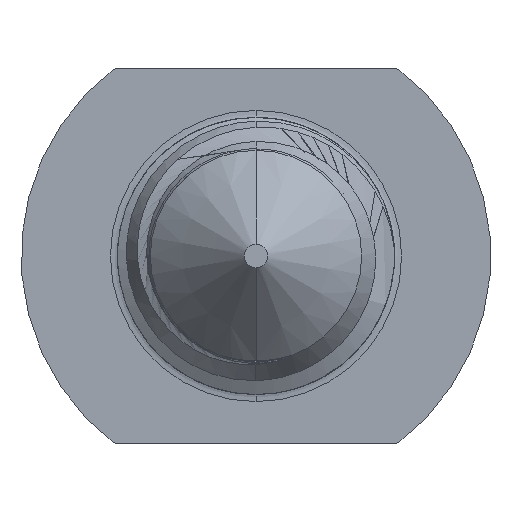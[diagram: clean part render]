
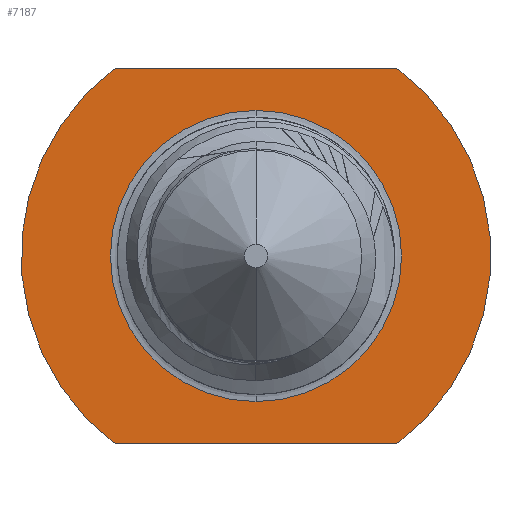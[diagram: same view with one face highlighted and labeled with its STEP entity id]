
A CAD part, front view. The second image highlights one B-rep face of the part: STEP entity #7187.
In plain terms, the highlighted planar face has unit normal (0, -1, 0).
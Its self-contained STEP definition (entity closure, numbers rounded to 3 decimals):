
#83 = CARTESIAN_POINT ( 'NONE',  ( 0., 0., 0. ) ) ;
#247 = CIRCLE ( 'NONE', #19374, 5. ) ;
#497 = DIRECTION ( 'NONE',  ( 0., 1., 0. ) ) ;
#1564 = AXIS2_PLACEMENT_3D ( 'NONE', #13418, #12155, #5413 ) ;
#2035 = ORIENTED_EDGE ( 'NONE', *, *, #19783, .T. ) ;
#2218 = ORIENTED_EDGE ( 'NONE', *, *, #12971, .T. ) ;
#3236 = CIRCLE ( 'NONE', #12350, 3.1 ) ;
#3238 = VECTOR ( 'NONE', #10981, 1000. ) ;
#3449 = CARTESIAN_POINT ( 'NONE',  ( 0., 0., 0. ) ) ;
#3719 = FACE_OUTER_BOUND ( 'NONE', #17692, .T. ) ;
#4107 = ORIENTED_EDGE ( 'NONE', *, *, #9130, .F. ) ;
#4137 = LINE ( 'NONE', #20434, #3238 ) ;
#4314 = DIRECTION ( 'NONE',  ( 0., 0., 1. ) ) ;
#4686 = DIRECTION ( 'NONE',  ( -1., 0., 0. ) ) ;
#5326 = CARTESIAN_POINT ( 'NONE',  ( -3., 0., 4. ) ) ;
#5365 = CARTESIAN_POINT ( 'NONE',  ( 3., 0., 4. ) ) ;
#5368 = CARTESIAN_POINT ( 'NONE',  ( 3., 0., -4. ) ) ;
#5413 = DIRECTION ( 'NONE',  ( 0., 0., 1. ) ) ;
#5640 = VECTOR ( 'NONE', #4686, 1000. ) ;
#5819 = CARTESIAN_POINT ( 'NONE',  ( 0., 0., 3.1 ) ) ;
#5835 = ORIENTED_EDGE ( 'NONE', *, *, #12139, .F. ) ;
#6505 = DIRECTION ( 'NONE',  ( 0., 1., 0. ) ) ;
#6553 = CARTESIAN_POINT ( 'NONE',  ( -3., 0., -4. ) ) ;
#6646 = VERTEX_POINT ( 'NONE', #5819 ) ;
#6703 = DIRECTION ( 'NONE',  ( 0., 0., 1. ) ) ;
#7187 = ADVANCED_FACE ( 'NONE', ( #8471, #3719 ), #18226, .F. ) ;
#7445 = EDGE_CURVE ( 'NONE', #13521, #11525, #4137, .T. ) ;
#7925 = EDGE_LOOP ( 'NONE', ( #2035, #2218 ) ) ;
#8396 = CARTESIAN_POINT ( 'NONE',  ( 0., 0., 0. ) ) ;
#8471 = FACE_BOUND ( 'NONE', #7925, .T. ) ;
#9130 = EDGE_CURVE ( 'NONE', #13521, #9808, #247, .T. ) ;
#9550 = LINE ( 'NONE', #20577, #5640 ) ;
#9686 = AXIS2_PLACEMENT_3D ( 'NONE', #8396, #497, #6703 ) ;
#9808 = VERTEX_POINT ( 'NONE', #5326 ) ;
#9833 = CARTESIAN_POINT ( 'NONE',  ( 0., 0., -3.1 ) ) ;
#10981 = DIRECTION ( 'NONE',  ( 1., 0., 0. ) ) ;
#11525 = VERTEX_POINT ( 'NONE', #5368 ) ;
#12139 = EDGE_CURVE ( 'NONE', #18950, #11525, #13325, .T. ) ;
#12155 = DIRECTION ( 'NONE',  ( 0., 1., 0. ) ) ;
#12350 = AXIS2_PLACEMENT_3D ( 'NONE', #83, #6505, #12917 ) ;
#12613 = ORIENTED_EDGE ( 'NONE', *, *, #7445, .T. ) ;
#12917 = DIRECTION ( 'NONE',  ( 0., 0., 1. ) ) ;
#12971 = EDGE_CURVE ( 'NONE', #20750, #6646, #3236, .T. ) ;
#13325 = CIRCLE ( 'NONE', #14014, 5. ) ;
#13360 = DIRECTION ( 'NONE',  ( 0., 0., 1. ) ) ;
#13418 = CARTESIAN_POINT ( 'NONE',  ( 0., 0., 0. ) ) ;
#13521 = VERTEX_POINT ( 'NONE', #6553 ) ;
#14014 = AXIS2_PLACEMENT_3D ( 'NONE', #20289, #18714, #4314 ) ;
#14969 = ORIENTED_EDGE ( 'NONE', *, *, #17237, .T. ) ;
#16076 = DIRECTION ( 'NONE',  ( 0., 1., 0. ) ) ;
#17237 = EDGE_CURVE ( 'NONE', #18950, #9808, #9550, .T. ) ;
#17692 = EDGE_LOOP ( 'NONE', ( #4107, #12613, #5835, #14969 ) ) ;
#18226 = PLANE ( 'NONE',  #1564 ) ;
#18714 = DIRECTION ( 'NONE',  ( 0., 1., 0. ) ) ;
#18950 = VERTEX_POINT ( 'NONE', #5365 ) ;
#19374 = AXIS2_PLACEMENT_3D ( 'NONE', #3449, #16076, #13360 ) ;
#19783 = EDGE_CURVE ( 'NONE', #6646, #20750, #20083, .T. ) ;
#20083 = CIRCLE ( 'NONE', #9686, 3.1 ) ;
#20289 = CARTESIAN_POINT ( 'NONE',  ( 0., 0., 0. ) ) ;
#20434 = CARTESIAN_POINT ( 'NONE',  ( 0., 0., -4. ) ) ;
#20577 = CARTESIAN_POINT ( 'NONE',  ( 0., 0., 4. ) ) ;
#20750 = VERTEX_POINT ( 'NONE', #9833 ) ;
